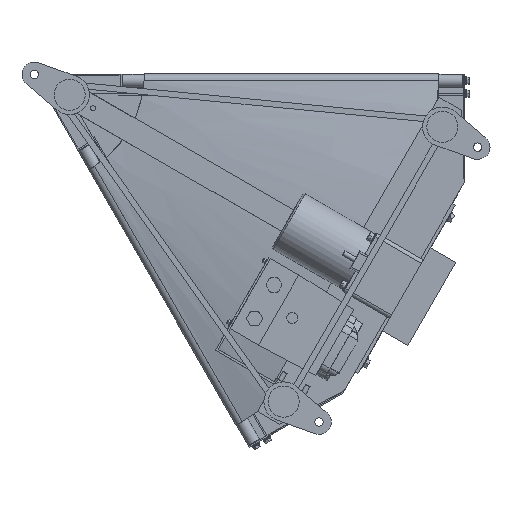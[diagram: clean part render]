
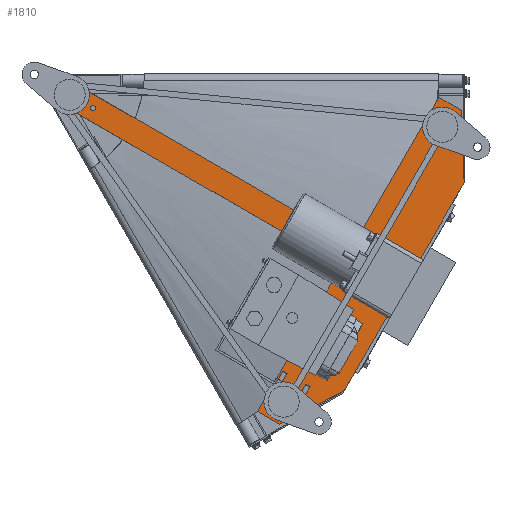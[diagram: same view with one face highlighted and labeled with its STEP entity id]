
A CAD part, front view. The second image highlights one B-rep face of the part: STEP entity #1810.
In plain terms, the highlighted planar face has unit normal (0, -1, 0).
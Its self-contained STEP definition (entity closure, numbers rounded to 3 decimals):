
#27 = VERTEX_POINT ( 'NONE', #11307 ) ;
#86 = ORIENTED_EDGE ( 'NONE', *, *, #24187, .F. ) ;
#155 = VERTEX_POINT ( 'NONE', #16746 ) ;
#1124 = VERTEX_POINT ( 'NONE', #33984 ) ;
#1810 = ADVANCED_FACE ( 'NONE', ( #40402 ), #50151, .T. ) ;
#1843 = ORIENTED_EDGE ( 'NONE', *, *, #43666, .F. ) ;
#2351 = EDGE_CURVE ( 'NONE', #17802, #30305, #24898, .T. ) ;
#3166 = ORIENTED_EDGE ( 'NONE', *, *, #32244, .F. ) ;
#3605 = EDGE_CURVE ( 'NONE', #30305, #47566, #11036, .T. ) ;
#3912 = VECTOR ( 'NONE', #23831, 1000. ) ;
#4550 = CARTESIAN_POINT ( 'NONE',  ( 34.549, -167.5, -41.886 ) ) ;
#4858 = DIRECTION ( 'NONE',  ( 0.5, 0., 0.866 ) ) ;
#5142 = EDGE_CURVE ( 'NONE', #47566, #32638, #42437, .T. ) ;
#5351 = CARTESIAN_POINT ( 'NONE',  ( 474.49, -167.5, -295.886 ) ) ;
#6573 = LINE ( 'NONE', #40083, #30055 ) ;
#6668 = CARTESIAN_POINT ( 'NONE',  ( 663.967, -167.5, -167.701 ) ) ;
#7144 = CARTESIAN_POINT ( 'NONE',  ( 344.865, -167.5, -520.403 ) ) ;
#7847 = LINE ( 'NONE', #23849, #23311 ) ;
#8174 = VECTOR ( 'NONE', #9045, 1000. ) ;
#8239 = VECTOR ( 'NONE', #34807, 1000. ) ;
#8581 = VERTEX_POINT ( 'NONE', #47137 ) ;
#8893 = LINE ( 'NONE', #38668, #28630 ) ;
#9045 = DIRECTION ( 'NONE',  ( -0.866, 0., 0.5 ) ) ;
#9974 = EDGE_CURVE ( 'NONE', #27, #17802, #44510, .T. ) ;
#10720 = CARTESIAN_POINT ( 'NONE',  ( 6.377, -167.5, -3.682 ) ) ;
#10963 = AXIS2_PLACEMENT_3D ( 'NONE', #10720, #11059, #18457 ) ;
#11036 = LINE ( 'NONE', #17668, #39487 ) ;
#11059 = DIRECTION ( 'NONE',  ( 0., -1., 0. ) ) ;
#11254 = LINE ( 'NONE', #18569, #39033 ) ;
#11307 = CARTESIAN_POINT ( 'NONE',  ( 659.506, -167.5, -55.429 ) ) ;
#11356 = EDGE_CURVE ( 'NONE', #1124, #27, #7847, .T. ) ;
#12354 = CARTESIAN_POINT ( 'NONE',  ( 478.967, -167.5, -488.131 ) ) ;
#14405 = ORIENTED_EDGE ( 'NONE', *, *, #3605, .F. ) ;
#14965 = VERTEX_POINT ( 'NONE', #30375 ) ;
#15699 = LINE ( 'NONE', #39369, #3912 ) ;
#16746 = CARTESIAN_POINT ( 'NONE',  ( 34.549, -167.5, -41.886 ) ) ;
#17668 = CARTESIAN_POINT ( 'NONE',  ( 379.506, -167.5, -540.403 ) ) ;
#17802 = VERTEX_POINT ( 'NONE', #18174 ) ;
#18174 = CARTESIAN_POINT ( 'NONE',  ( 663.967, -167.5, -167.701 ) ) ;
#18457 = DIRECTION ( 'NONE',  ( -0.139, 0., -0.99 ) ) ;
#18569 = CARTESIAN_POINT ( 'NONE',  ( 344.865, -167.5, -520.403 ) ) ;
#18794 = VERTEX_POINT ( 'NONE', #5351 ) ;
#23311 = VECTOR ( 'NONE', #48069, 1000. ) ;
#23831 = DIRECTION ( 'NONE',  ( 0.5, 0., 0.866 ) ) ;
#23849 = CARTESIAN_POINT ( 'NONE',  ( 624.865, -167.5, -35.429 ) ) ;
#24187 = EDGE_CURVE ( 'NONE', #14965, #8581, #8893, .T. ) ;
#24736 = ORIENTED_EDGE ( 'NONE', *, *, #9974, .F. ) ;
#24898 = LINE ( 'NONE', #34477, #8239 ) ;
#26679 = DIRECTION ( 'NONE',  ( 0.04, 0., -0.999 ) ) ;
#28630 = VECTOR ( 'NONE', #42454, 1000. ) ;
#29153 = ORIENTED_EDGE ( 'NONE', *, *, #43164, .F. ) ;
#30055 = VECTOR ( 'NONE', #4858, 1000. ) ;
#30305 = VERTEX_POINT ( 'NONE', #12354 ) ;
#30375 = CARTESIAN_POINT ( 'NONE',  ( 53.549, -167.5, -8.977 ) ) ;
#30543 = EDGE_LOOP ( 'NONE', ( #34102, #3166, #48077, #14405, #39311, #24736, #48727, #1843, #86, #29153 ) ) ;
#32244 = EDGE_CURVE ( 'NONE', #32638, #18794, #6573, .T. ) ;
#32638 = VERTEX_POINT ( 'NONE', #47033 ) ;
#33984 = CARTESIAN_POINT ( 'NONE',  ( 624.865, -167.5, -35.429 ) ) ;
#34102 = ORIENTED_EDGE ( 'NONE', *, *, #47416, .F. ) ;
#34477 = CARTESIAN_POINT ( 'NONE',  ( 478.967, -167.5, -488.131 ) ) ;
#34807 = DIRECTION ( 'NONE',  ( -0.5, 0., -0.866 ) ) ;
#38668 = CARTESIAN_POINT ( 'NONE',  ( 53.549, -167.5, -8.977 ) ) ;
#39033 = VECTOR ( 'NONE', #49597, 1000. ) ;
#39311 = ORIENTED_EDGE ( 'NONE', *, *, #2351, .F. ) ;
#39369 = CARTESIAN_POINT ( 'NONE',  ( 34.549, -167.5, -41.886 ) ) ;
#39487 = VECTOR ( 'NONE', #40818, 1000. ) ;
#40083 = CARTESIAN_POINT ( 'NONE',  ( 344.865, -167.5, -520.403 ) ) ;
#40402 = FACE_OUTER_BOUND ( 'NONE', #30543, .T. ) ;
#40567 = VECTOR ( 'NONE', #45924, 1000. ) ;
#40818 = DIRECTION ( 'NONE',  ( -0.885, 0., -0.465 ) ) ;
#42437 = LINE ( 'NONE', #7144, #40567 ) ;
#42454 = DIRECTION ( 'NONE',  ( 0.866, 0., -0.5 ) ) ;
#43164 = EDGE_CURVE ( 'NONE', #155, #14965, #15699, .T. ) ;
#43666 = EDGE_CURVE ( 'NONE', #8581, #1124, #11254, .T. ) ;
#44510 = LINE ( 'NONE', #6668, #45135 ) ;
#45135 = VECTOR ( 'NONE', #26679, 1000. ) ;
#45924 = DIRECTION ( 'NONE',  ( -0.866, 0., 0.5 ) ) ;
#47018 = LINE ( 'NONE', #4550, #8174 ) ;
#47033 = CARTESIAN_POINT ( 'NONE',  ( 344.865, -167.5, -520.403 ) ) ;
#47137 = CARTESIAN_POINT ( 'NONE',  ( 493.49, -167.5, -262.977 ) ) ;
#47416 = EDGE_CURVE ( 'NONE', #18794, #155, #47018, .T. ) ;
#47566 = VERTEX_POINT ( 'NONE', #50097 ) ;
#48069 = DIRECTION ( 'NONE',  ( 0.866, 0., -0.5 ) ) ;
#48077 = ORIENTED_EDGE ( 'NONE', *, *, #5142, .F. ) ;
#48727 = ORIENTED_EDGE ( 'NONE', *, *, #11356, .F. ) ;
#49597 = DIRECTION ( 'NONE',  ( 0.5, 0., 0.866 ) ) ;
#50097 = CARTESIAN_POINT ( 'NONE',  ( 379.506, -167.5, -540.403 ) ) ;
#50151 = PLANE ( 'NONE',  #10963 ) ;
